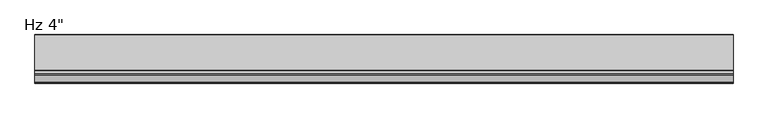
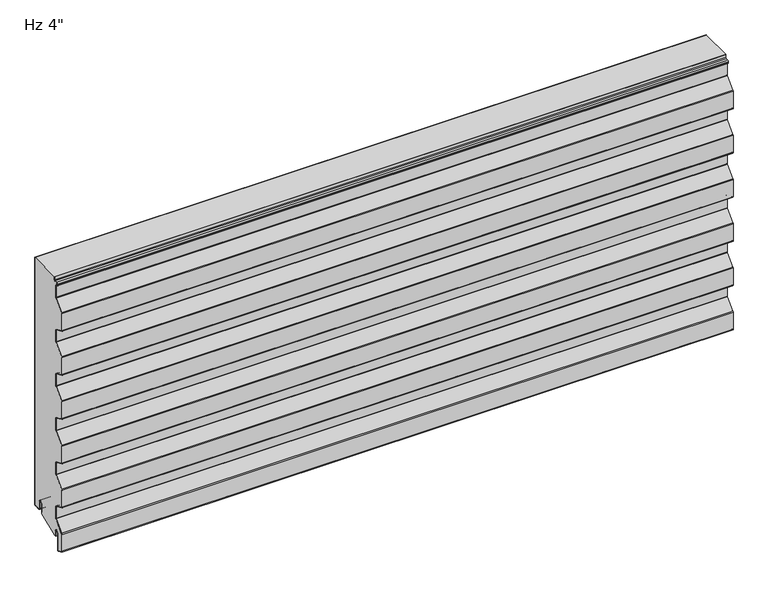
"""IFC4 building model written with IfcOpenShell, lengths in millimetres: plate geometry."""

from ifc_helpers import new_model, si_unit, point, frame, frame_2d, origin, place, context, project, spatial, polyline, circle_curve, trimmed, segment, composite_curve, outline, extrude, source, transform, mapped, element, save


def plate_517b7de6(model_context):
    return source(origin(), model_context, "Body", "SweptSolid", [
        extrude(outline(composite_curve([segment(polyline([(-26.4011912, 19.05), (-26.4011912, -3.1976612), (-74.633822, -23.01875), (-76.7886912, -23.01875), (-76.7886912, -11.90625)]), True, "CONTINUOUS"), segment(trimmed(circle_curve(frame_2d((-81.7574412, -11.90625)), 4.96875), [point((-76.7886912, -11.90625))], [point((-86.7261912, -11.90625))], True, "CARTESIAN"), True, "CONTINUOUS"), segment(polyline([(-86.7261912, -11.90625), (-86.7261912, -48.8194049)]), True, "CONTINUOUS"), segment(trimmed(circle_curve(frame_2d((-88.1074412, -48.8194049)), 1.38125), [point((-86.7261912, -48.8194049))], [point((-88.6666208, -50.0824052))], False, "CARTESIAN"), True, "CONTINUOUS"), segment(polyline([(-88.6666208, -50.0824052), (-99.7779296, -45.1629946)]), True, "CONTINUOUS"), segment(trimmed(circle_curve(frame_2d((-99.21875, -43.8999943)), 1.38125), [point((-99.7779296, -45.1629946))], [point((-100.6, -43.8999943))], False, "CARTESIAN"), True, "CONTINUOUS"), segment(polyline([(-100.6, -43.8999943), (-100.6, -5.0536946)]), True, "CONTINUOUS"), segment(trimmed(circle_curve(frame_2d((-98.5012, -5.0536946)), 2.0988), [point((-100.6, -5.0536946))], [point((-100.0092077, -3.5939431))], False, "CARTESIAN"), True, "CONTINUOUS"), segment(polyline([(-100.0092077, -3.5939431), (-79.8145567, 17.2682996)]), True, "CONTINUOUS"), segment(trimmed(circle_curve(frame_2d((-81.6737, 19.0679503)), 2.5875), [point((-79.8145567, 17.2682996))], [point((-79.0862, 19.0679503))], True, "CARTESIAN"), True, "CONTINUOUS"), segment(polyline([(-79.0862, 19.0679503), (-79.0862, 45.5917981)]), True, "CONTINUOUS"), segment(trimmed(circle_curve(frame_2d((-81.6737, 45.5917981)), 2.5875), [point((-79.0862, 45.5917981))], [point((-80.6261871, 47.9577806))], True, "CARTESIAN"), True, "CONTINUOUS"), segment(polyline([(-80.6261871, 47.9577806), (-99.7779296, 56.4370054)]), True, "CONTINUOUS"), segment(trimmed(circle_curve(frame_2d((-99.21875, 57.7000057)), 1.38125), [point((-99.7779296, 56.4370054))], [point((-100.6, 57.7000057))], False, "CARTESIAN"), True, "CONTINUOUS"), segment(polyline([(-100.6, 57.7000057), (-100.6, 96.8367131)]), True, "CONTINUOUS"), segment(trimmed(circle_curve(frame_2d((-99.21875, 96.8367131)), 1.38125), [point((-100.6, 96.8367131))], [point((-100.2111912, 97.7973962))], False, "CARTESIAN"), True, "CONTINUOUS"), segment(polyline([(-100.2111912, 97.7973962), (-79.8145567, 118.8682996)]), True, "CONTINUOUS"), segment(trimmed(circle_curve(frame_2d((-81.6737, 120.6679503)), 2.5875), [point((-79.8145567, 118.8682996))], [point((-79.0862, 120.6679503))], True, "CARTESIAN"), True, "CONTINUOUS"), segment(polyline([(-79.0862, 120.6679503), (-79.0862, 147.1917981)]), True, "CONTINUOUS"), segment(trimmed(circle_curve(frame_2d((-81.6737, 147.1917981)), 2.5875), [point((-79.0862, 147.1917981))], [point((-80.6261871, 149.5577806))], True, "CARTESIAN"), True, "CONTINUOUS"), segment(polyline([(-80.6261871, 149.5577806), (-99.7779296, 158.0370054)]), True, "CONTINUOUS"), segment(trimmed(circle_curve(frame_2d((-99.21875, 159.3000057)), 1.38125), [point((-99.7779296, 158.0370054))], [point((-100.6, 159.3000057))], False, "CARTESIAN"), True, "CONTINUOUS"), segment(polyline([(-100.6, 159.3000057), (-100.6, 198.4367131)]), True, "CONTINUOUS"), segment(trimmed(circle_curve(frame_2d((-99.21875, 198.4367131)), 1.38125), [point((-100.6, 198.4367131))], [point((-100.2111912, 199.3973962))], False, "CARTESIAN"), True, "CONTINUOUS"), segment(polyline([(-100.2111912, 199.3973962), (-79.8145567, 220.4682996)]), True, "CONTINUOUS"), segment(trimmed(circle_curve(frame_2d((-81.6737, 222.2679503)), 2.5875), [point((-79.8145567, 220.4682996))], [point((-79.0862, 222.2679503))], True, "CARTESIAN"), True, "CONTINUOUS"), segment(polyline([(-79.0862, 222.2679503), (-79.0862, 248.7917981)]), True, "CONTINUOUS"), segment(trimmed(circle_curve(frame_2d((-81.6737, 248.7917981)), 2.5875), [point((-79.0862, 248.7917981))], [point((-80.6261871, 251.1577806))], True, "CARTESIAN"), True, "CONTINUOUS"), segment(polyline([(-80.6261871, 251.1577806), (-99.7779296, 259.6370054)]), True, "CONTINUOUS"), segment(trimmed(circle_curve(frame_2d((-99.21875, 260.9000057)), 1.38125), [point((-99.7779296, 259.6370054))], [point((-100.6, 260.9000057))], False, "CARTESIAN"), True, "CONTINUOUS"), segment(polyline([(-100.6, 260.9000057), (-100.6, 300.0367131)]), True, "CONTINUOUS"), segment(trimmed(circle_curve(frame_2d((-99.21875, 300.0367131)), 1.38125), [point((-100.6, 300.0367131))], [point((-100.2111912, 300.9973962))], False, "CARTESIAN"), True, "CONTINUOUS"), segment(polyline([(-100.2111912, 300.9973962), (-79.8145567, 322.0682996)]), True, "CONTINUOUS"), segment(trimmed(circle_curve(frame_2d((-81.6737, 323.8679503)), 2.5875), [point((-79.8145567, 322.0682996))], [point((-79.0862, 323.8679503))], True, "CARTESIAN"), True, "CONTINUOUS"), segment(polyline([(-79.0862, 323.8679503), (-79.0862, 350.3917981)]), True, "CONTINUOUS"), segment(trimmed(circle_curve(frame_2d((-81.6737, 350.3917981)), 2.5875), [point((-79.0862, 350.3917981))], [point((-80.6261871, 352.7577806))], True, "CARTESIAN"), True, "CONTINUOUS"), segment(polyline([(-80.6261871, 352.7577806), (-99.7779296, 361.2370054)]), True, "CONTINUOUS"), segment(trimmed(circle_curve(frame_2d((-99.21875, 362.5000057)), 1.38125), [point((-99.7779296, 361.2370054))], [point((-100.6, 362.5000057))], False, "CARTESIAN"), True, "CONTINUOUS"), segment(polyline([(-100.6, 362.5000057), (-100.6, 401.6367131)]), True, "CONTINUOUS"), segment(trimmed(circle_curve(frame_2d((-99.21875, 401.6367131)), 1.38125), [point((-100.6, 401.6367131))], [point((-100.2111912, 402.5973962))], False, "CARTESIAN"), True, "CONTINUOUS"), segment(polyline([(-100.2111912, 402.5973962), (-79.8145567, 423.6682996)]), True, "CONTINUOUS"), segment(trimmed(circle_curve(frame_2d((-81.6737, 425.4679503)), 2.5875), [point((-79.8145567, 423.6682996))], [point((-79.0862, 425.4679503))], True, "CARTESIAN"), True, "CONTINUOUS"), segment(polyline([(-79.0862, 425.4679503), (-79.0862, 451.9917981)]), True, "CONTINUOUS"), segment(trimmed(circle_curve(frame_2d((-81.6737, 451.9917981)), 2.5875), [point((-79.0862, 451.9917981))], [point((-80.6261871, 454.3577806))], True, "CARTESIAN"), True, "CONTINUOUS"), segment(polyline([(-80.6261871, 454.3577806), (-99.7779296, 462.8370054)]), True, "CONTINUOUS"), segment(trimmed(circle_curve(frame_2d((-99.21875, 464.1000057)), 1.38125), [point((-99.7779296, 462.8370054))], [point((-100.6, 464.1000057))], False, "CARTESIAN"), True, "CONTINUOUS"), segment(polyline([(-100.6, 464.1000057), (-100.6, 503.2367131)]), True, "CONTINUOUS"), segment(trimmed(circle_curve(frame_2d((-99.21875, 503.2367131)), 1.38125), [point((-100.6, 503.2367131))], [point((-100.2111912, 504.1973962))], False, "CARTESIAN"), True, "CONTINUOUS"), segment(polyline([(-100.2111912, 504.1973962), (-79.8145567, 525.2682996)]), True, "CONTINUOUS"), segment(trimmed(circle_curve(frame_2d((-81.6737, 527.0679503)), 2.5875), [point((-79.8145567, 525.2682996))], [point((-79.0862, 527.0679503))], True, "CARTESIAN"), True, "CONTINUOUS"), segment(polyline([(-79.0862, 527.0679503), (-79.0862, 553.5917981)]), True, "CONTINUOUS"), segment(trimmed(circle_curve(frame_2d((-81.6737, 553.5917981)), 2.5875), [point((-79.0862, 553.5917981))], [point((-80.6261871, 555.9577806))], True, "CARTESIAN"), True, "CONTINUOUS"), segment(polyline([(-80.6261871, 555.9577806), (-82.3166208, 556.7062016)]), True, "CONTINUOUS"), segment(trimmed(circle_curve(frame_2d((-81.7574412, 557.9692019)), 1.38125), [point((-82.3166208, 556.7062016))], [point((-83.1386912, 557.9692019))], False, "CARTESIAN"), True, "CONTINUOUS"), segment(polyline([(-83.1386912, 557.9692019), (-83.1386912, 560.2967085)]), True, "CONTINUOUS"), segment(trimmed(circle_curve(frame_2d((-81.7574412, 560.2967085)), 1.38125), [point((-83.1386912, 560.2967085))], [point((-81.8297302, 561.6760655))], False, "CARTESIAN"), True, "CONTINUOUS"), segment(polyline([(-81.8297302, 561.6760655), (-76.0657719, 561.9781418)]), True, "CONTINUOUS"), segment(trimmed(circle_curve(frame_2d((-76.2011912, 564.5620957)), 2.5875), [point((-76.0657719, 561.9781418))], [point((-73.6136912, 564.5620957))], True, "CARTESIAN"), True, "CONTINUOUS"), segment(polyline([(-73.6136912, 564.5620957), (-73.6136912, 571.2), (-1.0011912, 571.2), (-1.0011912, 3.175)]), True, "CONTINUOUS"), segment(trimmed(circle_curve(frame_2d((-2.3824412, 3.175)), 1.38125), [point((-1.0011912, 3.175))], [point((-2.3824412, 1.79375))], False, "CARTESIAN"), True, "CONTINUOUS"), segment(polyline([(-2.3824412, 1.79375), (-15.0824412, 1.79375)]), True, "CONTINUOUS"), segment(trimmed(circle_curve(frame_2d((-15.0824412, 3.175)), 1.38125), [point((-15.0824412, 1.79375))], [point((-16.4636912, 3.175))], False, "CARTESIAN"), True, "CONTINUOUS"), segment(polyline([(-16.4636912, 3.175), (-16.4636912, 19.05)]), True, "CONTINUOUS"), segment(trimmed(circle_curve(frame_2d((-21.4324412, 19.05)), 4.96875), [point((-16.4636912, 19.05))], [point((-26.4011912, 19.05))], True, "CARTESIAN"), True, "CONTINUOUS")], self_intersect=False)), frame((-730.0, 0.0, 0.0), z_axis=(1.0, 0.0, 0.0), x_axis=(0.0, 1.0, 0.0)), (0.0, 0.0, 1.0), 1460.0),
        extrude(outline(composite_curve([segment(polyline([(-25.4, 0.79375), (-26.4, 0.79375), (-26.4, 19.05)]), True, "CONTINUOUS"), segment(trimmed(circle_curve(frame_2d((-21.43125, 19.05)), 4.96875), [point((-26.4, 19.05))], [point((-16.4625, 19.05))], False, "CARTESIAN"), True, "CONTINUOUS"), segment(polyline([(-16.4625, 19.05), (-16.4625, 3.175)]), True, "CONTINUOUS"), segment(trimmed(circle_curve(frame_2d((-15.08125, 3.175)), 1.38125), [point((-16.4625, 3.175))], [point((-15.08125, 1.79375))], True, "CARTESIAN"), True, "CONTINUOUS"), segment(polyline([(-15.08125, 1.79375), (-2.38125, 1.79375)]), True, "CONTINUOUS"), segment(trimmed(circle_curve(frame_2d((-2.38125, 3.175)), 1.38125), [point((-2.38125, 1.79375))], [point((-1.0, 3.175))], True, "CARTESIAN"), True, "CONTINUOUS"), segment(polyline([(-1.0, 3.175), (-1.0, 571.2), (0.0, 571.2), (0.0, 3.175)]), True, "CONTINUOUS"), segment(trimmed(circle_curve(frame_2d((-2.38125, 3.175)), 2.38125), [point((0.0, 3.175))], [point((-2.38125, 0.79375))], False, "CARTESIAN"), True, "CONTINUOUS"), segment(polyline([(-2.38125, 0.79375), (-15.08125, 0.79375)]), True, "CONTINUOUS"), segment(trimmed(circle_curve(frame_2d((-15.08125, 3.175)), 2.38125), [point((-15.08125, 0.79375))], [point((-17.4625, 3.175))], False, "CARTESIAN"), True, "CONTINUOUS"), segment(polyline([(-17.4625, 3.175), (-17.4625, 19.05)]), True, "CONTINUOUS"), segment(trimmed(circle_curve(frame_2d((-21.43125, 19.05)), 3.96875), [point((-17.4625, 19.05))], [point((-25.4, 19.05))], True, "CARTESIAN"), True, "CONTINUOUS"), segment(polyline([(-25.4, 19.05), (-25.4, 0.79375)]), True, "CONTINUOUS")], self_intersect=False)), frame((-730.0, 0.0, 0.0), z_axis=(1.0, 0.0, 0.0), x_axis=(0.0, 1.0, 0.0)), (0.0, 0.0, 1.0), 1460.0),
        extrude(outline(composite_curve([segment(polyline([(-85.7261912, -11.90625), (-85.7261912, -48.8194049)]), True, "CONTINUOUS"), segment(trimmed(circle_curve(frame_2d((-88.1074412, -48.8194049)), 2.38125), [point((-85.7261912, -48.8194049))], [point((-89.0714567, -50.9967946))], False, "CARTESIAN"), True, "CONTINUOUS"), segment(polyline([(-89.0714567, -50.9967946), (-100.1827655, -46.0773839)]), True, "CONTINUOUS"), segment(trimmed(circle_curve(frame_2d((-99.21875, -43.8999943)), 2.38125), [point((-100.1827655, -46.0773839))], [point((-101.6, -43.8999943))], False, "CARTESIAN"), True, "CONTINUOUS"), segment(polyline([(-101.6, -43.8999943), (-101.6, -5.0536946)]), True, "CONTINUOUS"), segment(trimmed(circle_curve(frame_2d((-98.5012, -5.0536946)), 3.0988), [point((-101.6, -5.0536946))], [point((-100.7277172, -2.8984259))], False, "CARTESIAN"), True, "CONTINUOUS"), segment(polyline([(-100.7277172, -2.8984259), (-80.5330662, 17.9638168)]), True, "CONTINUOUS"), segment(trimmed(circle_curve(frame_2d((-81.6737, 19.0679503)), 1.5875), [point((-80.5330662, 17.9638168))], [point((-80.0862, 19.0679503))], True, "CARTESIAN"), True, "CONTINUOUS"), segment(polyline([(-80.0862, 19.0679503), (-80.0862, 45.5917981)]), True, "CONTINUOUS"), segment(trimmed(circle_curve(frame_2d((-81.6737, 45.5917981)), 1.5875), [point((-80.0862, 45.5917981))], [point((-81.031023, 47.0433912))], True, "CARTESIAN"), True, "CONTINUOUS"), segment(polyline([(-81.031023, 47.0433912), (-100.1827655, 55.5226161)]), True, "CONTINUOUS"), segment(trimmed(circle_curve(frame_2d((-99.21875, 57.7000057)), 2.38125), [point((-100.1827655, 55.5226161))], [point((-101.6, 57.7000057))], False, "CARTESIAN"), True, "CONTINUOUS"), segment(polyline([(-101.6, 57.7000057), (-101.6, 96.8367131)]), True, "CONTINUOUS"), segment(trimmed(circle_curve(frame_2d((-99.21875, 96.8367131)), 2.38125), [point((-101.6, 96.8367131))], [point((-100.9297007, 98.4929134))], False, "CARTESIAN"), True, "CONTINUOUS"), segment(polyline([(-100.9297007, 98.4929134), (-80.5330662, 119.5638168)]), True, "CONTINUOUS"), segment(trimmed(circle_curve(frame_2d((-81.6737, 120.6679503)), 1.5875), [point((-80.5330662, 119.5638168))], [point((-80.0862, 120.6679503))], True, "CARTESIAN"), True, "CONTINUOUS"), segment(polyline([(-80.0862, 120.6679503), (-80.0862, 147.1917981)]), True, "CONTINUOUS"), segment(trimmed(circle_curve(frame_2d((-81.6737, 147.1917981)), 1.5875), [point((-80.0862, 147.1917981))], [point((-81.031023, 148.6433912))], True, "CARTESIAN"), True, "CONTINUOUS"), segment(polyline([(-81.031023, 148.6433912), (-100.1827655, 157.1226161)]), True, "CONTINUOUS"), segment(trimmed(circle_curve(frame_2d((-99.21875, 159.3000057)), 2.38125), [point((-100.1827655, 157.1226161))], [point((-101.6, 159.3000057))], False, "CARTESIAN"), True, "CONTINUOUS"), segment(polyline([(-101.6, 159.3000057), (-101.6, 198.4367131)]), True, "CONTINUOUS"), segment(trimmed(circle_curve(frame_2d((-99.21875, 198.4367131)), 2.38125), [point((-101.6, 198.4367131))], [point((-100.9297007, 200.0929134))], False, "CARTESIAN"), True, "CONTINUOUS"), segment(polyline([(-100.9297007, 200.0929134), (-80.5330662, 221.1638168)]), True, "CONTINUOUS"), segment(trimmed(circle_curve(frame_2d((-81.6737, 222.2679503)), 1.5875), [point((-80.5330662, 221.1638168))], [point((-80.0862, 222.2679503))], True, "CARTESIAN"), True, "CONTINUOUS"), segment(polyline([(-80.0862, 222.2679503), (-80.0862, 248.7917981)]), True, "CONTINUOUS"), segment(trimmed(circle_curve(frame_2d((-81.6737, 248.7917981)), 1.5875), [point((-80.0862, 248.7917981))], [point((-81.031023, 250.2433912))], True, "CARTESIAN"), True, "CONTINUOUS"), segment(polyline([(-81.031023, 250.2433912), (-100.1827655, 258.7226161)]), True, "CONTINUOUS"), segment(trimmed(circle_curve(frame_2d((-99.21875, 260.9000057)), 2.38125), [point((-100.1827655, 258.7226161))], [point((-101.6, 260.9000057))], False, "CARTESIAN"), True, "CONTINUOUS"), segment(polyline([(-101.6, 260.9000057), (-101.6, 300.0367131)]), True, "CONTINUOUS"), segment(trimmed(circle_curve(frame_2d((-99.21875, 300.0367131)), 2.38125), [point((-101.6, 300.0367131))], [point((-100.9297007, 301.6929134))], False, "CARTESIAN"), True, "CONTINUOUS"), segment(polyline([(-100.9297007, 301.6929134), (-80.5330662, 322.7638168)]), True, "CONTINUOUS"), segment(trimmed(circle_curve(frame_2d((-81.6737, 323.8679503)), 1.5875), [point((-80.5330662, 322.7638168))], [point((-80.0862, 323.8679503))], True, "CARTESIAN"), True, "CONTINUOUS"), segment(polyline([(-80.0862, 323.8679503), (-80.0862, 350.3917981)]), True, "CONTINUOUS"), segment(trimmed(circle_curve(frame_2d((-81.6737, 350.3917981)), 1.5875), [point((-80.0862, 350.3917981))], [point((-81.031023, 351.8433912))], True, "CARTESIAN"), True, "CONTINUOUS"), segment(polyline([(-81.031023, 351.8433912), (-100.1827655, 360.3226161)]), True, "CONTINUOUS"), segment(trimmed(circle_curve(frame_2d((-99.21875, 362.5000057)), 2.38125), [point((-100.1827655, 360.3226161))], [point((-101.6, 362.5000057))], False, "CARTESIAN"), True, "CONTINUOUS"), segment(polyline([(-101.6, 362.5000057), (-101.6, 401.6367131)]), True, "CONTINUOUS"), segment(trimmed(circle_curve(frame_2d((-99.21875, 401.6367131)), 2.38125), [point((-101.6, 401.6367131))], [point((-100.9297007, 403.2929134))], False, "CARTESIAN"), True, "CONTINUOUS"), segment(polyline([(-100.9297007, 403.2929134), (-80.5330662, 424.3638168)]), True, "CONTINUOUS"), segment(trimmed(circle_curve(frame_2d((-81.6737, 425.4679503)), 1.5875), [point((-80.5330662, 424.3638168))], [point((-80.0862, 425.4679503))], True, "CARTESIAN"), True, "CONTINUOUS"), segment(polyline([(-80.0862, 425.4679503), (-80.0862, 451.9917981)]), True, "CONTINUOUS"), segment(trimmed(circle_curve(frame_2d((-81.6737, 451.9917981)), 1.5875), [point((-80.0862, 451.9917981))], [point((-81.031023, 453.4433912))], True, "CARTESIAN"), True, "CONTINUOUS"), segment(polyline([(-81.031023, 453.4433912), (-100.1827655, 461.9226161)]), True, "CONTINUOUS"), segment(trimmed(circle_curve(frame_2d((-99.21875, 464.1000057)), 2.38125), [point((-100.1827655, 461.9226161))], [point((-101.6, 464.1000057))], False, "CARTESIAN"), True, "CONTINUOUS"), segment(polyline([(-101.6, 464.1000057), (-101.6, 503.2367131)]), True, "CONTINUOUS"), segment(trimmed(circle_curve(frame_2d((-99.21875, 503.2367131)), 2.38125), [point((-101.6, 503.2367131))], [point((-100.9297007, 504.8929134))], False, "CARTESIAN"), True, "CONTINUOUS"), segment(polyline([(-100.9297007, 504.8929134), (-80.5330662, 525.9638168)]), True, "CONTINUOUS"), segment(trimmed(circle_curve(frame_2d((-81.6737, 527.0679503)), 1.5875), [point((-80.5330662, 525.9638168))], [point((-80.0862, 527.0679503))], True, "CARTESIAN"), True, "CONTINUOUS"), segment(polyline([(-80.0862, 527.0679503), (-80.0862, 553.5917981)]), True, "CONTINUOUS"), segment(trimmed(circle_curve(frame_2d((-81.6737, 553.5917981)), 1.5875), [point((-80.0862, 553.5917981))], [point((-81.031023, 555.0433912))], True, "CARTESIAN"), True, "CONTINUOUS"), segment(polyline([(-81.031023, 555.0433912), (-82.7214567, 555.7918123)]), True, "CONTINUOUS"), segment(trimmed(circle_curve(frame_2d((-81.7574412, 557.9692019)), 2.38125), [point((-82.7214567, 555.7918123))], [point((-84.1386912, 557.9692019))], False, "CARTESIAN"), True, "CONTINUOUS"), segment(polyline([(-84.1386912, 557.9692019), (-84.1386912, 560.2967085)]), True, "CONTINUOUS"), segment(trimmed(circle_curve(frame_2d((-81.7574412, 560.2967085)), 2.38125), [point((-84.1386912, 560.2967085))], [point((-81.8820662, 562.6746951))], False, "CARTESIAN"), True, "CONTINUOUS"), segment(polyline([(-81.8820662, 562.6746951), (-76.1181078, 562.9767713)]), True, "CONTINUOUS"), segment(trimmed(circle_curve(frame_2d((-76.2011912, 564.5620957)), 1.5875), [point((-76.1181078, 562.9767713))], [point((-74.6136912, 564.5620957))], True, "CARTESIAN"), True, "CONTINUOUS"), segment(polyline([(-74.6136912, 564.5620957), (-74.6136912, 571.2), (-73.6136912, 571.2), (-73.6136912, 564.5620957)]), True, "CONTINUOUS"), segment(trimmed(circle_curve(frame_2d((-76.2011912, 564.5620957)), 2.5875), [point((-73.6136912, 564.5620957))], [point((-76.0657719, 561.9781418))], False, "CARTESIAN"), True, "CONTINUOUS"), segment(polyline([(-76.0657719, 561.9781418), (-81.8297302, 561.6760655)]), True, "CONTINUOUS"), segment(trimmed(circle_curve(frame_2d((-81.7574412, 560.2967085)), 1.38125), [point((-81.8297302, 561.6760655))], [point((-83.1386912, 560.2967085))], True, "CARTESIAN"), True, "CONTINUOUS"), segment(polyline([(-83.1386912, 560.2967085), (-83.1386912, 557.9692019)]), True, "CONTINUOUS"), segment(trimmed(circle_curve(frame_2d((-81.7574412, 557.9692019)), 1.38125), [point((-83.1386912, 557.9692019))], [point((-82.3166208, 556.7062016))], True, "CARTESIAN"), True, "CONTINUOUS"), segment(polyline([(-82.3166208, 556.7062016), (-80.6261871, 555.9577806)]), True, "CONTINUOUS"), segment(trimmed(circle_curve(frame_2d((-81.6737, 553.5917981)), 2.5875), [point((-80.6261871, 555.9577806))], [point((-79.0862, 553.5917981))], False, "CARTESIAN"), True, "CONTINUOUS"), segment(polyline([(-79.0862, 553.5917981), (-79.0862, 527.0679503)]), True, "CONTINUOUS"), segment(trimmed(circle_curve(frame_2d((-81.6737, 527.0679503)), 2.5875), [point((-79.0862, 527.0679503))], [point((-79.8145567, 525.2682996))], False, "CARTESIAN"), True, "CONTINUOUS"), segment(polyline([(-79.8145567, 525.2682996), (-100.2111912, 504.1973962)]), True, "CONTINUOUS"), segment(trimmed(circle_curve(frame_2d((-99.21875, 503.2367131)), 1.38125), [point((-100.2111912, 504.1973962))], [point((-100.6, 503.2367131))], True, "CARTESIAN"), True, "CONTINUOUS"), segment(polyline([(-100.6, 503.2367131), (-100.6, 464.1000057)]), True, "CONTINUOUS"), segment(trimmed(circle_curve(frame_2d((-99.21875, 464.1000057)), 1.38125), [point((-100.6, 464.1000057))], [point((-99.7779296, 462.8370054))], True, "CARTESIAN"), True, "CONTINUOUS"), segment(polyline([(-99.7779296, 462.8370054), (-80.6261871, 454.3577806)]), True, "CONTINUOUS"), segment(trimmed(circle_curve(frame_2d((-81.6737, 451.9917981)), 2.5875), [point((-80.6261871, 454.3577806))], [point((-79.0862, 451.9917981))], False, "CARTESIAN"), True, "CONTINUOUS"), segment(polyline([(-79.0862, 451.9917981), (-79.0862, 425.4679503)]), True, "CONTINUOUS"), segment(trimmed(circle_curve(frame_2d((-81.6737, 425.4679503)), 2.5875), [point((-79.0862, 425.4679503))], [point((-79.8145567, 423.6682996))], False, "CARTESIAN"), True, "CONTINUOUS"), segment(polyline([(-79.8145567, 423.6682996), (-100.2111912, 402.5973962)]), True, "CONTINUOUS"), segment(trimmed(circle_curve(frame_2d((-99.21875, 401.6367131)), 1.38125), [point((-100.2111912, 402.5973962))], [point((-100.6, 401.6367131))], True, "CARTESIAN"), True, "CONTINUOUS"), segment(polyline([(-100.6, 401.6367131), (-100.6, 362.5000057)]), True, "CONTINUOUS"), segment(trimmed(circle_curve(frame_2d((-99.21875, 362.5000057)), 1.38125), [point((-100.6, 362.5000057))], [point((-99.7779296, 361.2370054))], True, "CARTESIAN"), True, "CONTINUOUS"), segment(polyline([(-99.7779296, 361.2370054), (-80.6261871, 352.7577806)]), True, "CONTINUOUS"), segment(trimmed(circle_curve(frame_2d((-81.6737, 350.3917981)), 2.5875), [point((-80.6261871, 352.7577806))], [point((-79.0862, 350.3917981))], False, "CARTESIAN"), True, "CONTINUOUS"), segment(polyline([(-79.0862, 350.3917981), (-79.0862, 323.8679503)]), True, "CONTINUOUS"), segment(trimmed(circle_curve(frame_2d((-81.6737, 323.8679503)), 2.5875), [point((-79.0862, 323.8679503))], [point((-79.8145567, 322.0682996))], False, "CARTESIAN"), True, "CONTINUOUS"), segment(polyline([(-79.8145567, 322.0682996), (-100.2111912, 300.9973962)]), True, "CONTINUOUS"), segment(trimmed(circle_curve(frame_2d((-99.21875, 300.0367131)), 1.38125), [point((-100.2111912, 300.9973962))], [point((-100.6, 300.0367131))], True, "CARTESIAN"), True, "CONTINUOUS"), segment(polyline([(-100.6, 300.0367131), (-100.6, 260.9000057)]), True, "CONTINUOUS"), segment(trimmed(circle_curve(frame_2d((-99.21875, 260.9000057)), 1.38125), [point((-100.6, 260.9000057))], [point((-99.7779296, 259.6370054))], True, "CARTESIAN"), True, "CONTINUOUS"), segment(polyline([(-99.7779296, 259.6370054), (-80.6261871, 251.1577806)]), True, "CONTINUOUS"), segment(trimmed(circle_curve(frame_2d((-81.6737, 248.7917981)), 2.5875), [point((-80.6261871, 251.1577806))], [point((-79.0862, 248.7917981))], False, "CARTESIAN"), True, "CONTINUOUS"), segment(polyline([(-79.0862, 248.7917981), (-79.0862, 222.2679503)]), True, "CONTINUOUS"), segment(trimmed(circle_curve(frame_2d((-81.6737, 222.2679503)), 2.5875), [point((-79.0862, 222.2679503))], [point((-79.8145567, 220.4682996))], False, "CARTESIAN"), True, "CONTINUOUS"), segment(polyline([(-79.8145567, 220.4682996), (-100.2111912, 199.3973962)]), True, "CONTINUOUS"), segment(trimmed(circle_curve(frame_2d((-99.21875, 198.4367131)), 1.38125), [point((-100.2111912, 199.3973962))], [point((-100.6, 198.4367131))], True, "CARTESIAN"), True, "CONTINUOUS"), segment(polyline([(-100.6, 198.4367131), (-100.6, 159.3000057)]), True, "CONTINUOUS"), segment(trimmed(circle_curve(frame_2d((-99.21875, 159.3000057)), 1.38125), [point((-100.6, 159.3000057))], [point((-99.7779296, 158.0370054))], True, "CARTESIAN"), True, "CONTINUOUS"), segment(polyline([(-99.7779296, 158.0370054), (-80.6261871, 149.5577806)]), True, "CONTINUOUS"), segment(trimmed(circle_curve(frame_2d((-81.6737, 147.1917981)), 2.5875), [point((-80.6261871, 149.5577806))], [point((-79.0862, 147.1917981))], False, "CARTESIAN"), True, "CONTINUOUS"), segment(polyline([(-79.0862, 147.1917981), (-79.0862, 120.6679503)]), True, "CONTINUOUS"), segment(trimmed(circle_curve(frame_2d((-81.6737, 120.6679503)), 2.5875), [point((-79.0862, 120.6679503))], [point((-79.8145567, 118.8682996))], False, "CARTESIAN"), True, "CONTINUOUS"), segment(polyline([(-79.8145567, 118.8682996), (-100.2111912, 97.7973962)]), True, "CONTINUOUS"), segment(trimmed(circle_curve(frame_2d((-99.21875, 96.8367131)), 1.38125), [point((-100.2111912, 97.7973962))], [point((-100.6, 96.8367131))], True, "CARTESIAN"), True, "CONTINUOUS"), segment(polyline([(-100.6, 96.8367131), (-100.6, 57.7000057)]), True, "CONTINUOUS"), segment(trimmed(circle_curve(frame_2d((-99.21875, 57.7000057)), 1.38125), [point((-100.6, 57.7000057))], [point((-99.7779296, 56.4370054))], True, "CARTESIAN"), True, "CONTINUOUS"), segment(polyline([(-99.7779296, 56.4370054), (-80.6261871, 47.9577806)]), True, "CONTINUOUS"), segment(trimmed(circle_curve(frame_2d((-81.6737, 45.5917981)), 2.5875), [point((-80.6261871, 47.9577806))], [point((-79.0862, 45.5917981))], False, "CARTESIAN"), True, "CONTINUOUS"), segment(polyline([(-79.0862, 45.5917981), (-79.0862, 19.0679503)]), True, "CONTINUOUS"), segment(trimmed(circle_curve(frame_2d((-81.6737, 19.0679503)), 2.5875), [point((-79.0862, 19.0679503))], [point((-79.8145567, 17.2682996))], False, "CARTESIAN"), True, "CONTINUOUS"), segment(polyline([(-79.8145567, 17.2682996), (-100.0092077, -3.5939431)]), True, "CONTINUOUS"), segment(trimmed(circle_curve(frame_2d((-98.5012, -5.0536946)), 2.0988), [point((-100.0092077, -3.5939431))], [point((-100.6, -5.0536946))], True, "CARTESIAN"), True, "CONTINUOUS"), segment(polyline([(-100.6, -5.0536946), (-100.6, -43.8999943)]), True, "CONTINUOUS"), segment(trimmed(circle_curve(frame_2d((-99.21875, -43.8999943)), 1.38125), [point((-100.6, -43.8999943))], [point((-99.7779296, -45.1629946))], True, "CARTESIAN"), True, "CONTINUOUS"), segment(polyline([(-99.7779296, -45.1629946), (-88.6666208, -50.0824052)]), True, "CONTINUOUS"), segment(trimmed(circle_curve(frame_2d((-88.1074412, -48.8194049)), 1.38125), [point((-88.6666208, -50.0824052))], [point((-86.7261912, -48.8194049))], True, "CARTESIAN"), True, "CONTINUOUS"), segment(polyline([(-86.7261912, -48.8194049), (-86.7261912, -11.90625)]), True, "CONTINUOUS"), segment(trimmed(circle_curve(frame_2d((-81.7574412, -11.90625)), 4.96875), [point((-86.7261912, -11.90625))], [point((-76.7886912, -11.90625))], False, "CARTESIAN"), True, "CONTINUOUS"), segment(polyline([(-76.7886912, -11.90625), (-76.7886912, -23.01875), (-77.7886912, -23.01875), (-77.7886912, -11.90625)]), True, "CONTINUOUS"), segment(trimmed(circle_curve(frame_2d((-81.7574412, -11.90625)), 3.96875), [point((-77.7886912, -11.90625))], [point((-85.7261912, -11.90625))], True, "CARTESIAN"), True, "CONTINUOUS")], self_intersect=False)), frame((-730.0, 0.0, 0.0), z_axis=(1.0, 0.0, 0.0), x_axis=(0.0, 1.0, 0.0)), (0.0, 0.0, 1.0), 1460.0),
    ])


if __name__ == "__main__":
    model = new_model("IFC4")
    model_context = context("Model", 3, world=origin())
    ifc_project = project(units=[si_unit("LENGTHUNIT", "METRE", prefix="MILLI")], contexts=[model_context])
    site = spatial("IfcSite", under=ifc_project)
    building = spatial("IfcBuilding", under=site)
    placement = place(None, origin())
    plate_shape = plate_517b7de6(model_context)
    element("IfcPlate", 1, ObjectType="KIP-24-DWR-R19-CP-Hz-S : Hz 4\"", at=placement, inside=building, context=model_context, shape_type="MappedRepresentation", body=[
        mapped(plate_shape, transform((0.0, 0.0, 0.0), x_axis=(1.0, 0.0, 0.0), y_axis=(0.0, 1.0, 0.0), z_axis=(0.0, 0.0, 1.0))),
    ])
    save(model, "model.ifc")
